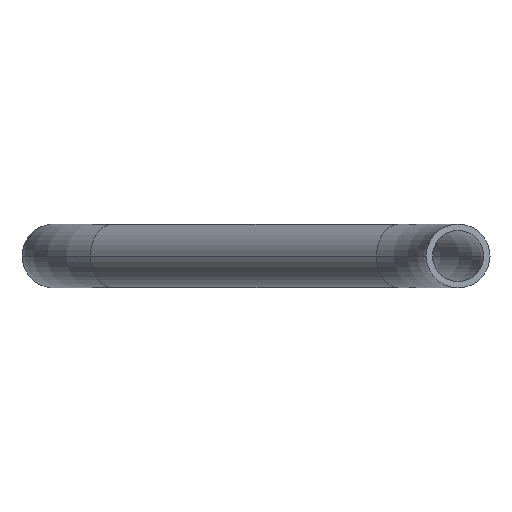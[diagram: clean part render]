
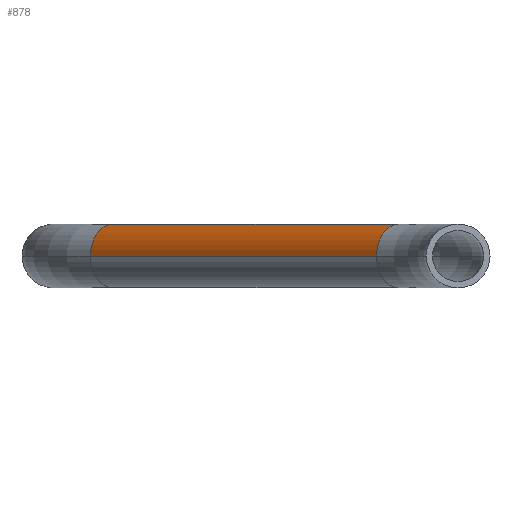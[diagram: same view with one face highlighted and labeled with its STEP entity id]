
A CAD part, front view. The second image highlights one B-rep face of the part: STEP entity #878.
In plain terms, the highlighted cylindrical face has radius 7.5 mm (diameter 15 mm), a partial arc.
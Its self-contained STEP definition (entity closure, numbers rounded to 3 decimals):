
#38 = EDGE_LOOP ( 'NONE', ( #48, #103, #125, #63 ) ) ;
#48 = ORIENTED_EDGE ( 'NONE', *, *, #460, .T. ) ;
#63 = ORIENTED_EDGE ( 'NONE', *, *, #464, .F. ) ;
#72 = VERTEX_POINT ( 'NONE', #835 ) ;
#97 = VERTEX_POINT ( 'NONE', #582 ) ;
#99 = VERTEX_POINT ( 'NONE', #688 ) ;
#103 = ORIENTED_EDGE ( 'NONE', *, *, #468, .T. ) ;
#111 = VERTEX_POINT ( 'NONE', #731 ) ;
#125 = ORIENTED_EDGE ( 'NONE', *, *, #454, .F. ) ;
#221 = FACE_OUTER_BOUND ( 'NONE', #38, .T. ) ;
#228 = CYLINDRICAL_SURFACE ( 'NONE', #374, 7.5 ) ;
#255 = VECTOR ( 'NONE', #723, 1000. ) ;
#258 = LINE ( 'NONE', #792, #255 ) ;
#269 = VECTOR ( 'NONE', #581, 1000. ) ;
#271 = LINE ( 'NONE', #726, #269 ) ;
#277 = CIRCLE ( 'NONE', #431, 7.5 ) ;
#282 = CIRCLE ( 'NONE', #436, 7.5 ) ;
#374 = AXIS2_PLACEMENT_3D ( 'NONE', #739, #608, #539 ) ;
#431 = AXIS2_PLACEMENT_3D ( 'NONE', #812, #779, #759 ) ;
#436 = AXIS2_PLACEMENT_3D ( 'NONE', #518, #807, #693 ) ;
#454 = EDGE_CURVE ( 'NONE', #97, #99, #282, .T. ) ;
#460 = EDGE_CURVE ( 'NONE', #111, #72, #277, .T. ) ;
#464 = EDGE_CURVE ( 'NONE', #111, #97, #271, .T. ) ;
#468 = EDGE_CURVE ( 'NONE', #72, #99, #258, .T. ) ;
#518 = CARTESIAN_POINT ( 'NONE',  ( -13.875, -123.45, -60. ) ) ;
#539 = DIRECTION ( 'NONE',  ( 0.708, 0.706, 0. ) ) ;
#581 = DIRECTION ( 'NONE',  ( 0.706, -0.708, 0. ) ) ;
#582 = CARTESIAN_POINT ( 'NONE',  ( -8.566, -118.152, -60. ) ) ;
#608 = DIRECTION ( 'NONE',  ( 0.706, -0.708, 0. ) ) ;
#688 = CARTESIAN_POINT ( 'NONE',  ( -19.184, -128.747, -60. ) ) ;
#693 = DIRECTION ( 'NONE',  ( 0., 0., 1. ) ) ;
#723 = DIRECTION ( 'NONE',  ( 0.706, -0.708, 0. ) ) ;
#726 = CARTESIAN_POINT ( 'NONE',  ( -75.816, -50.753, -60. ) ) ;
#731 = CARTESIAN_POINT ( 'NONE',  ( -75.816, -50.753, -60. ) ) ;
#739 = CARTESIAN_POINT ( 'NONE',  ( -81.125, -56.05, -60. ) ) ;
#759 = DIRECTION ( 'NONE',  ( 0., 0., 1. ) ) ;
#779 = DIRECTION ( 'NONE',  ( 0.706, -0.708, 0. ) ) ;
#792 = CARTESIAN_POINT ( 'NONE',  ( -86.434, -61.348, -60. ) ) ;
#807 = DIRECTION ( 'NONE',  ( 0.706, -0.708, 0. ) ) ;
#812 = CARTESIAN_POINT ( 'NONE',  ( -81.125, -56.05, -60. ) ) ;
#835 = CARTESIAN_POINT ( 'NONE',  ( -86.434, -61.348, -60. ) ) ;
#878 = ADVANCED_FACE ( 'NONE', ( #221 ), #228, .T. ) ;
